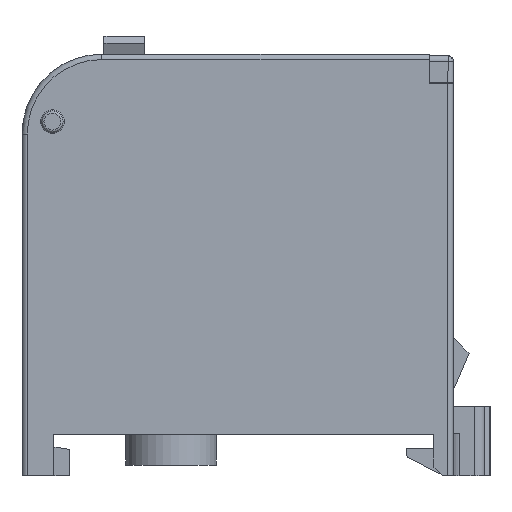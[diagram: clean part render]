
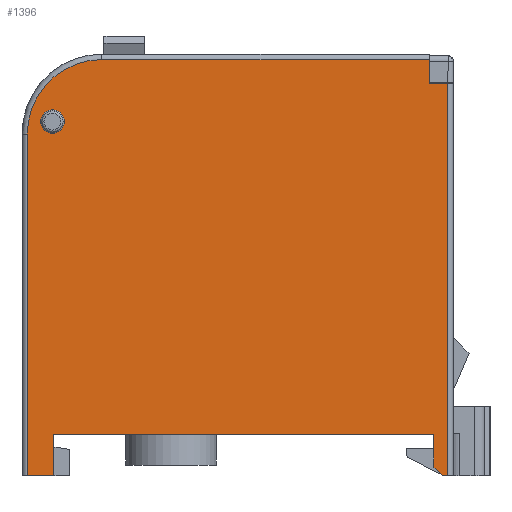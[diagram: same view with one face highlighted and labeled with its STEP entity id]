
A CAD part, left-side view. The second image highlights one B-rep face of the part: STEP entity #1396.
In plain terms, the highlighted planar face has unit normal (-1, 0, 0).
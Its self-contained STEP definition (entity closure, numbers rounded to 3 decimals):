
#445=CIRCLE('',#13277,7.);
#446=CIRCLE('',#13278,1.1);
#1396=ADVANCED_FACE('',(#2515,#2516),#2067,.T.);
#2067=PLANE('',#13279);
#2515=FACE_BOUND('',#2641,.T.);
#2516=FACE_BOUND('',#2642,.T.);
#2641=EDGE_LOOP('',(#3652,#3653,#3654,#3655,#3656,#3657,#3658,#3659,#3660,
#3661,#3662,#3663));
#2642=EDGE_LOOP('',(#3664));
#3652=ORIENTED_EDGE('',*,*,#8583,.F.);
#3653=ORIENTED_EDGE('',*,*,#8480,.T.);
#3654=ORIENTED_EDGE('',*,*,#8473,.F.);
#3655=ORIENTED_EDGE('',*,*,#8466,.T.);
#3656=ORIENTED_EDGE('',*,*,#8580,.T.);
#3657=ORIENTED_EDGE('',*,*,#8572,.T.);
#3658=ORIENTED_EDGE('',*,*,#8569,.T.);
#3659=ORIENTED_EDGE('',*,*,#8584,.F.);
#3660=ORIENTED_EDGE('',*,*,#8585,.T.);
#3661=ORIENTED_EDGE('',*,*,#8586,.T.);
#3662=ORIENTED_EDGE('',*,*,#8587,.F.);
#3663=ORIENTED_EDGE('',*,*,#8588,.F.);
#3664=ORIENTED_EDGE('',*,*,#8589,.T.);
#7207=VERTEX_POINT('',#18007);
#7209=VERTEX_POINT('',#18011);
#7217=VERTEX_POINT('',#18028);
#7222=VERTEX_POINT('',#18041);
#7306=VERTEX_POINT('',#18216);
#7307=VERTEX_POINT('',#18218);
#7309=VERTEX_POINT('',#18224);
#7314=VERTEX_POINT('',#18249);
#7315=VERTEX_POINT('',#18251);
#7316=VERTEX_POINT('',#18253);
#7317=VERTEX_POINT('',#18255);
#7318=VERTEX_POINT('',#18257);
#7319=VERTEX_POINT('',#18260);
#8466=EDGE_CURVE('',#7207,#7209,#10334,.T.);
#8473=EDGE_CURVE('',#7207,#7217,#10340,.T.);
#8480=EDGE_CURVE('',#7222,#7217,#10347,.T.);
#8569=EDGE_CURVE('',#7307,#7306,#10432,.T.);
#8572=EDGE_CURVE('',#7309,#7307,#10435,.T.);
#8580=EDGE_CURVE('',#7209,#7309,#10443,.T.);
#8583=EDGE_CURVE('',#7222,#7314,#10445,.T.);
#8584=EDGE_CURVE('',#7315,#7306,#10446,.T.);
#8585=EDGE_CURVE('',#7315,#7316,#10447,.T.);
#8586=EDGE_CURVE('',#7316,#7317,#10448,.T.);
#8587=EDGE_CURVE('',#7318,#7317,#10449,.T.);
#8588=EDGE_CURVE('',#7314,#7318,#445,.T.);
#8589=EDGE_CURVE('',#7319,#7319,#446,.T.);
#10334=LINE('',#18012,#11822);
#10340=LINE('',#18027,#11828);
#10347=LINE('',#18040,#11835);
#10432=LINE('',#18217,#11920);
#10435=LINE('',#18223,#11923);
#10443=LINE('',#18239,#11931);
#10445=LINE('',#18248,#11933);
#10446=LINE('',#18250,#11934);
#10447=LINE('',#18252,#11935);
#10448=LINE('',#18254,#11936);
#10449=LINE('',#18256,#11937);
#11822=VECTOR('',#14427,1.);
#11828=VECTOR('',#14437,1.);
#11835=VECTOR('',#14446,1.);
#11920=VECTOR('',#14545,1.);
#11923=VECTOR('',#14550,1.);
#11931=VECTOR('',#14566,1.);
#11933=VECTOR('',#14580,1.);
#11934=VECTOR('',#14581,1.);
#11935=VECTOR('',#14582,1.);
#11936=VECTOR('',#14583,1.);
#11937=VECTOR('',#14584,1.);
#13277=AXIS2_PLACEMENT_3D('',#18258,#14585,#14586);
#13278=AXIS2_PLACEMENT_3D('',#18259,#14587,#14588);
#13279=AXIS2_PLACEMENT_3D('',#18261,#14589,#14590);
#14427=DIRECTION('',(0.,-1.,0.));
#14437=DIRECTION('',(0.,0.,-1.));
#14446=DIRECTION('',(0.,-1.,0.));
#14545=DIRECTION('',(0.,-1.,0.));
#14550=DIRECTION('',(0.,-0.707,-0.707));
#14566=DIRECTION('',(0.,0.,-1.));
#14580=DIRECTION('',(0.,0.,1.));
#14581=DIRECTION('',(0.,0.,-1.));
#14582=DIRECTION('',(0.,1.,0.));
#14583=DIRECTION('',(0.,0.,1.));
#14584=DIRECTION('',(0.,-1.,0.));
#14585=DIRECTION('',(1.,0.,0.));
#14586=DIRECTION('',(0.,0.707,0.707));
#14587=DIRECTION('',(1.,0.,0.));
#14588=DIRECTION('',(0.,1.,0.));
#14589=DIRECTION('',(-1.,0.,0.));
#14590=DIRECTION('',(0.,0.,-1.));
#18007=CARTESIAN_POINT('',(-33.98,-10.421,57.725));
#18011=CARTESIAN_POINT('',(-33.98,-46.121,57.725));
#18012=CARTESIAN_POINT('',(-33.98,-10.421,57.725));
#18027=CARTESIAN_POINT('',(-33.98,-10.421,57.725));
#18028=CARTESIAN_POINT('',(-33.98,-10.421,53.825));
#18040=CARTESIAN_POINT('',(-33.98,-7.921,53.825));
#18041=CARTESIAN_POINT('',(-33.98,-7.921,53.825));
#18216=CARTESIAN_POINT('',(-33.98,-47.421,53.825));
#18217=CARTESIAN_POINT('',(-33.98,-46.921,53.825));
#18218=CARTESIAN_POINT('',(-33.98,-46.921,53.825));
#18223=CARTESIAN_POINT('',(-33.98,-46.121,54.625));
#18224=CARTESIAN_POINT('',(-33.98,-46.121,54.625));
#18239=CARTESIAN_POINT('',(-33.98,-46.121,57.725));
#18248=CARTESIAN_POINT('',(-33.98,-7.921,53.825));
#18249=CARTESIAN_POINT('',(-33.98,-7.921,85.925));
#18250=CARTESIAN_POINT('',(-33.98,-47.421,67.825));
#18251=CARTESIAN_POINT('',(-33.98,-47.421,90.675));
#18252=CARTESIAN_POINT('',(-33.98,-47.421,90.675));
#18253=CARTESIAN_POINT('',(-33.98,-45.671,90.675));
#18254=CARTESIAN_POINT('',(-33.98,-45.671,90.675));
#18255=CARTESIAN_POINT('',(-33.98,-45.671,92.925));
#18256=CARTESIAN_POINT('',(-33.98,-14.921,92.925));
#18257=CARTESIAN_POINT('',(-33.98,-14.921,92.925));
#18258=CARTESIAN_POINT('',(-33.98,-14.921,85.925));
#18259=CARTESIAN_POINT('',(-33.98,-10.284,87.102));
#18260=CARTESIAN_POINT('',(-33.98,-11.384,87.102));
#18261=CARTESIAN_POINT('',(-33.98,79.303,76.725));
